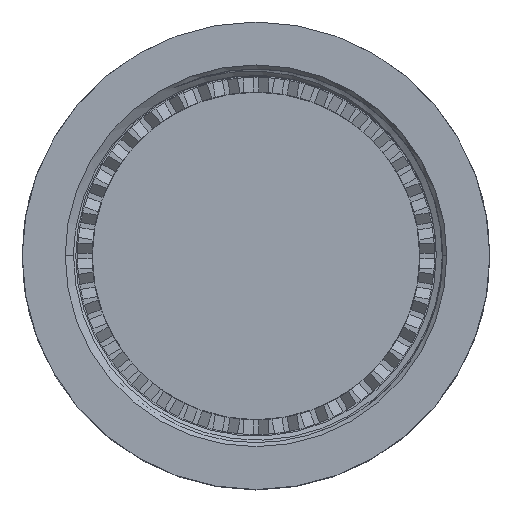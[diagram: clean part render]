
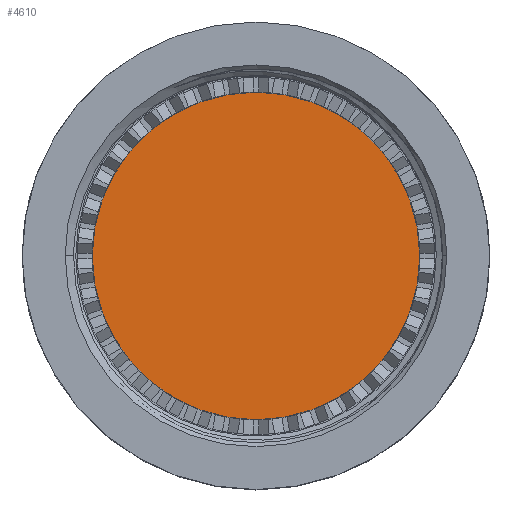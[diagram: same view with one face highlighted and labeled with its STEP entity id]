
A CAD part, top view. The second image highlights one B-rep face of the part: STEP entity #4610.
In plain terms, the highlighted planar face has unit normal (0, 0, 1).
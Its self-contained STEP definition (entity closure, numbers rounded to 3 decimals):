
#164 = CARTESIAN_POINT ( 'NONE',  ( 0., 0., -1.936 ) ) ;
#536 = DIRECTION ( 'NONE',  ( 0., 0., 1. ) ) ;
#834 = CIRCLE ( 'NONE', #2411, 13.513 ) ;
#1192 = CARTESIAN_POINT ( 'NONE',  ( 13.513, 0., -1.936 ) ) ;
#1196 = DIRECTION ( 'NONE',  ( 0., 0., -1. ) ) ;
#1585 = ORIENTED_EDGE ( 'NONE', *, *, #4262, .T. ) ;
#1775 = VERTEX_POINT ( 'NONE', #1192 ) ;
#1795 = CARTESIAN_POINT ( 'NONE',  ( -13.513, 0., -1.936 ) ) ;
#1833 = DIRECTION ( 'NONE',  ( -1., 0., 0. ) ) ;
#1909 = DIRECTION ( 'NONE',  ( -1., 0., 0. ) ) ;
#2272 = AXIS2_PLACEMENT_3D ( 'NONE', #164, #1196, #1909 ) ;
#2411 = AXIS2_PLACEMENT_3D ( 'NONE', #5253, #536, #1833 ) ;
#2509 = DIRECTION ( 'NONE',  ( -1., 0., 0. ) ) ;
#4262 = EDGE_CURVE ( 'NONE', #1775, #7192, #834, .T. ) ;
#4610 = ADVANCED_FACE ( 'NONE', ( #8482 ), #6280, .F. ) ;
#4643 = AXIS2_PLACEMENT_3D ( 'NONE', #5084, #5760, #2509 ) ;
#5084 = CARTESIAN_POINT ( 'NONE',  ( 0., 0., -1.936 ) ) ;
#5253 = CARTESIAN_POINT ( 'NONE',  ( 0., 0., -1.936 ) ) ;
#5760 = DIRECTION ( 'NONE',  ( 0., 0., 1. ) ) ;
#6280 = PLANE ( 'NONE',  #2272 ) ;
#6344 = CIRCLE ( 'NONE', #4643, 13.513 ) ;
#7123 = EDGE_CURVE ( 'NONE', #7192, #1775, #6344, .T. ) ;
#7192 = VERTEX_POINT ( 'NONE', #1795 ) ;
#7464 = EDGE_LOOP ( 'NONE', ( #1585, #8793 ) ) ;
#8482 = FACE_OUTER_BOUND ( 'NONE', #7464, .T. ) ;
#8793 = ORIENTED_EDGE ( 'NONE', *, *, #7123, .T. ) ;
